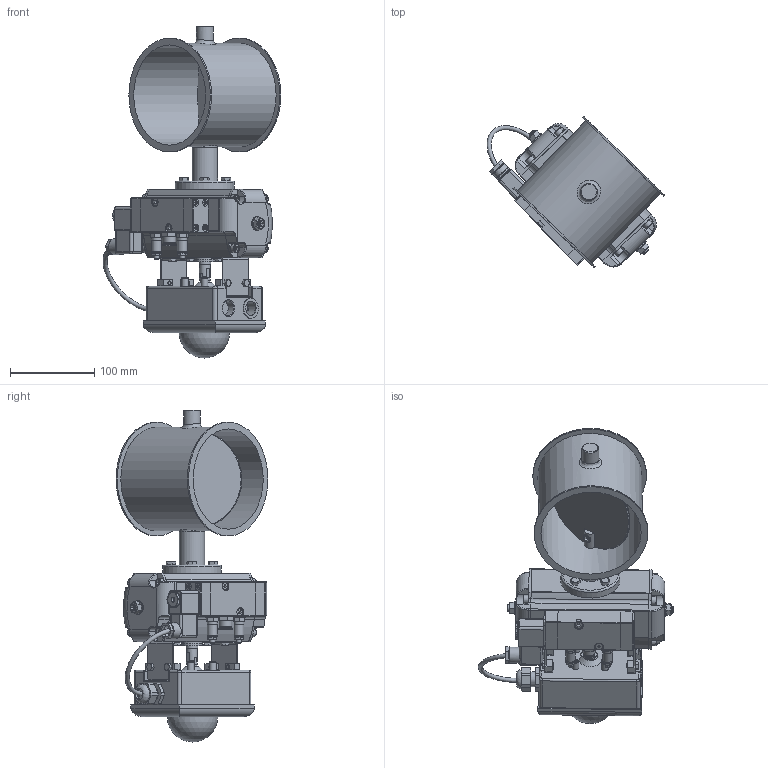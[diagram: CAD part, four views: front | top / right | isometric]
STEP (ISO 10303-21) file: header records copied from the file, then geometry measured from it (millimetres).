
FILE_DESCRIPTION((''),'2;1');
FILE_NAME('U:\Wolfgang\Marcel-3D\fertig\Kapitel 8\1221213.stp','2011-05-03T15:03:59',('TK1'),(''),'Autodesk Inventor 2010','Autodesk Inventor 2010','');
FILE_SCHEMA(('AUTOMOTIVE_DESIGN { 1 0 10303 214 1 1 1 1 }'));
Length unit declared in the file: millimetre
Products named in the file (41): 1221213; Bolzen D15; Scheibe120b; DIN 6912 M6 x 16; 1221211-1; Antrieb Flowserve; BuchseD15 70-50; Pneumatischer SchwenkantriebS63D-2; Body; roter Verschluss; A1 Schwenkantrieb; Body S063D; End Cap L; End Cap R; DIN EN ISO 4762 M6 x 12; DIN EN ISO 4018 M5x10; DIN 916 M8  x  40; DIN 555 - ersetzt durch DIN EN 24034 M8; DIN 125-1 A A 8,4; DIN 125-1 A A 13; A1 Ventileinheit-2; Ventil1; Ventil1a; Ventil1b; Ventil1a_1; Ventil1b_1; ISO 7046-1 Z M4 x 25 - 4.8 - Z; Ventil1c; Ventil1d; ISO 7047 (H) M3x8 - 4.8 - H; DIN 7984 M6 x 40; DIN EN ISO 7042 M8; Ventil1e; Ventil1f; DIN EN 24766 M6 x 30; DIN 439-2 - ersetzt durch DIN EN 24035/28675 M6; entlüftung; Halterung; Deckel2; Schlauch 1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
Assembly tree (79 placements, depth 5):
  1221213
    Bolzen D15  x2
    Scheibe120b
    DIN 6912 M6 x 16  x2
    1221211-1
    Antrieb Flowserve
      BuchseD15 70-50
      Pneumatischer SchwenkantriebS63D-2
        Body
        roter Verschluss
        A1 Schwenkantrieb
          Body S063D
          End Cap L
          End Cap R
          DIN EN ISO 4762 M6 x 12  x8
          DIN EN ISO 4018 M5x10  x4
          DIN 916 M8  x  40  x2
          DIN 555 - ersetzt durch DIN EN 24034 M8  x2
          DIN 125-1 A A 8,4  x2
          DIN 125-1 A A 13  x2
        A1 Ventileinheit-2
          Ventil1
          Ventil1a
          Ventil1b
          Ventil1a_1
          Ventil1b_1
          ISO 7046-1 Z M4 x 25 - 4.8 - Z  x8
          Ventil1c
          Ventil1d
          ISO 7047 (H) M3x8 - 4.8 - H
          DIN 7984 M6 x 40  x2
          DIN EN ISO 7042 M8  x2
          DIN 125-1 A A 8,4  x2
          Ventil1e  x2
          Ventil1f  x2
          DIN EN 24766 M6 x 30  x2
          DIN 439-2 - ersetzt durch DIN EN 24035/28675 M6  x2
          entlüftung
        Halterung  x2
        DIN EN ISO 4018 M5x10  x4
        Deckel2
        Schlauch 1
      DIN EN ISO 4018 M6x25  x4
Bounding box: 211.07 x 180.15 x 394 mm (x, y, z)
Volume: 1660185.3 mm3; surface area: 415860.8 mm2
Topology: 78 solids, 79 shells, 1679 faces, 3970 edges, 2523 vertices
Faces by surface type: plane 824, cylinder 326, cone 302, bspline 146, torus 73, sphere 8
Full cylindrical faces by diameter (mm): 2.5 x1, 3 x3, 3.242 x8, 3.571 x8, 4 x8, 4.917 x4, 5 x10, 5.5 x1, 6 x24, 6.647 x1, 8 x6, 8.4 x12, 10 x14, 11.63 x6, 11.9 x2, 12 x1, 12.5 x1, 13 x7, 14 x5, 15 x3, 15.5 x1, 15.918 x1, 16 x5, 16.918 x1, 17 x3, 17.79 x2, 18 x3, 19 x2, 20 x1, 22 x1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
Entity records: 30488 total; most frequent: CARTESIAN_POINT 8255, DIRECTION 4469, ORIENTED_EDGE 3896, EDGE_CURVE 1948, AXIS2_PLACEMENT_3D 1768, VERTEX_POINT 1367, EDGE_LOOP 1360, FACE_OUTER_BOUND 959
